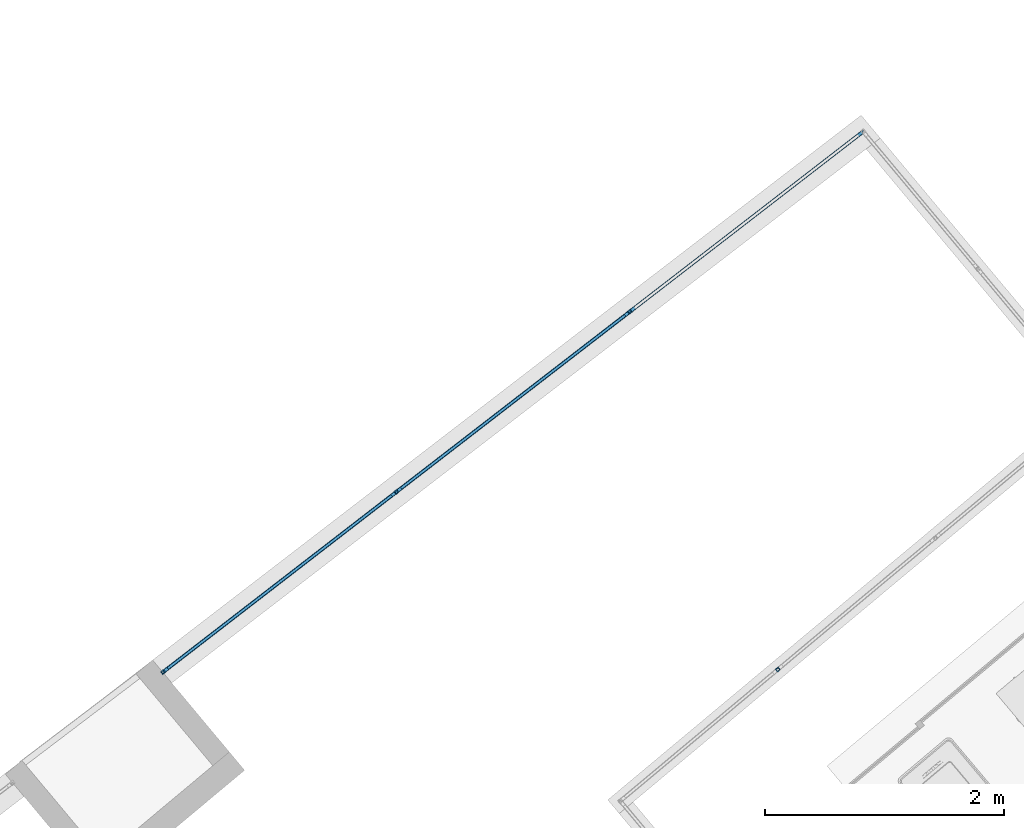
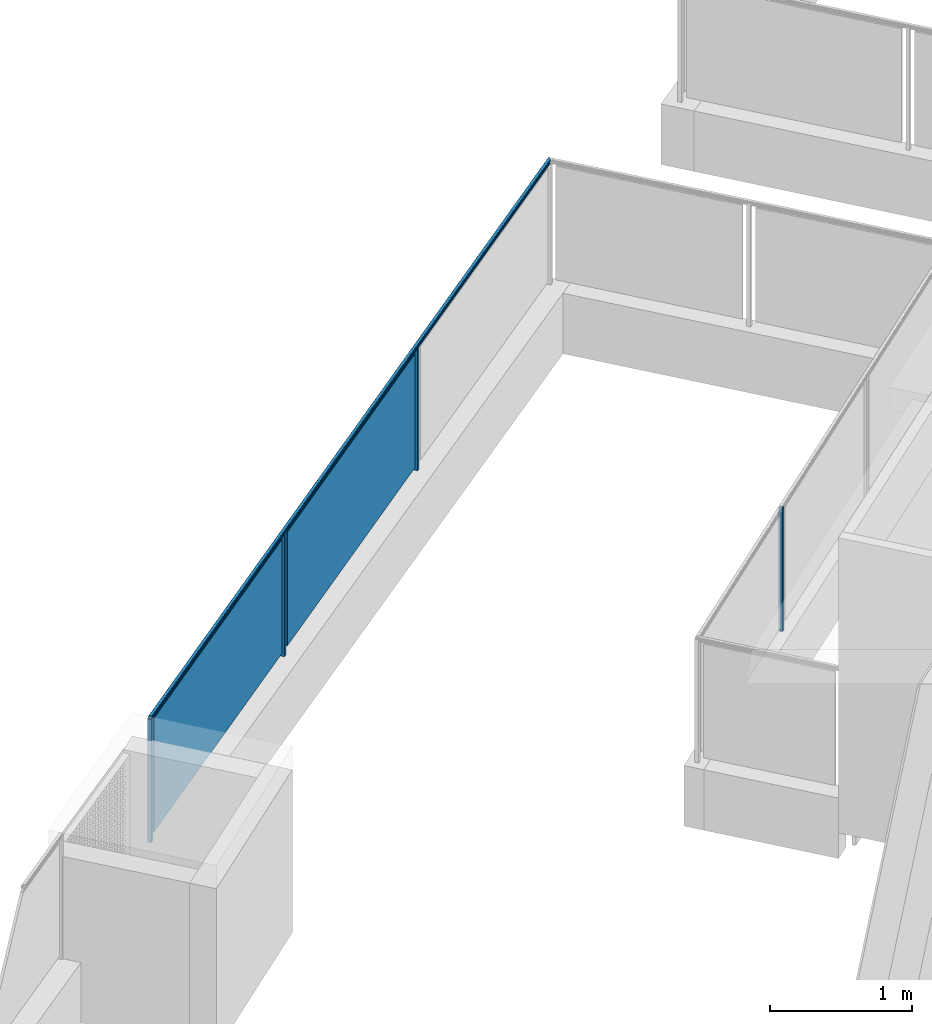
# One storey, part 35 of 67: 7 building element parts, 1 element without a shape of its own.
"""IFC4 building model written with IfcOpenShell, lengths in metres."""

from ifc_helpers import new_model, entity, si_unit, converted_unit, derived_unit, direction, frame, origin_with_axes, place, context, subcontext, project, spatial, polygons, material, type_object, element, aggregate, save


model = new_model("IFC4")

# Units and contexts
model_context = context("Model", 3, precision=1e-05, world=origin_with_axes(), true_north=direction((0.0, 1.0)))
body_context = subcontext(model_context, "Body", "Model", "MODEL_VIEW")
ifc_project = project(units=[si_unit("LENGTHUNIT", "METRE"), si_unit("AREAUNIT", "SQUARE_METRE"), si_unit("VOLUMEUNIT", "CUBIC_METRE"), converted_unit("PLANEANGLEUNIT", "DEGREE", entity("IfcPlaneAngleMeasure", 0.0174532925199), si_unit("PLANEANGLEUNIT", "RADIAN"), dimensions=[0, 0, 0, 0, 0, 0, 0]), converted_unit("TIMEUNIT", "Year", entity("IfcTimeMeasure", 31556926.0), si_unit("TIMEUNIT", "SECOND"), dimensions=[0, 0, 1, 0, 0, 0, 0]), si_unit("MASSUNIT", "GRAM", prefix="KILO"), si_unit("THERMODYNAMICTEMPERATUREUNIT", "DEGREE_CELSIUS"), si_unit("LUMINOUSINTENSITYUNIT", "LUMEN"), si_unit("ENERGYUNIT", "JOULE", prefix="MEGA"), derived_unit("THERMALCONDUCTANCEUNIT", [(si_unit("POWERUNIT", "WATT"), 1), (si_unit("LENGTHUNIT", "METRE"), -1), (si_unit("THERMODYNAMICTEMPERATUREUNIT", "KELVIN"), -1)]), derived_unit("SPECIFICHEATCAPACITYUNIT", [(si_unit("ENERGYUNIT", "JOULE"), 1), (si_unit("MASSUNIT", "GRAM", prefix="KILO"), -1), (si_unit("THERMODYNAMICTEMPERATUREUNIT", "KELVIN"), -1)]), derived_unit("MASSDENSITYUNIT", [(si_unit("MASSUNIT", "GRAM", prefix="KILO"), 1), (si_unit("VOLUMEUNIT", "CUBIC_METRE"), -1)])], contexts=[model_context])

# Site, building, storey
site_placement = place(None, frame((-0.00153261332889, -0.00661245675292, 0.0), z_axis=(0.0, 0.0, 1.0), x_axis=(1.0, 0.0, 0.0)))
site = spatial("IfcSite", under=ifc_project, at=site_placement, Name="Site", CompositionType="ELEMENT")
building_placement = place(site_placement, origin_with_axes())
building = spatial("IfcBuilding", under=site, at=building_placement, Name="Building", CompositionType="ELEMENT")
storey_placement = place(building_placement, frame((0.0, 0.0, -0.22), z_axis=(0.0, 0.0, 1.0), x_axis=(1.0, 0.0, 0.0)))
storey = spatial("IfcBuildingStorey", under=building, at=storey_placement, Name="EG", CompositionType="ELEMENT", Elevation=-0.22)

# Railing, building element parts
railing_type = type_object("IfcRailingType", Name="Geländerart", PredefinedType="NOTDEFINED")
railing_placement = place(storey_placement, frame((-6.36726458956, 22.4448248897, 0.523948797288), z_axis=(0.0, 0.0, 1.0), x_axis=(1.0, 0.0, 0.0)))
railing = element("IfcRailing", 1, at=railing_placement, inside=storey, type_object=railing_type, Name="Geländer - 001", PredefinedType="NOTDEFINED")
ifc_material_1 = material(Name="Aluminium")
building_element_part_1_placement = place(railing_placement, origin_with_axes())
building_element_part_1 = element("IfcBuildingElementPart", 2, at=building_element_part_1_placement, material=ifc_material_1, Name="Aluminium", PredefinedType="NOTDEFINED", context=body_context, shape_type="Tessellation", body=[
    polygons([(-4.49120678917, 1.96508217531, 0.0), (-4.47287339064, 1.94133588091, 0.0), (-4.47287339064, 1.94133588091, 1.06), (-4.49120678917, 1.96508217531, 1.06), (-4.46746049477, 1.98341557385, 0.0), (-4.44912709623, 1.95966927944, 0.0), (-4.48419350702, 1.964180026, 0.0), (-4.47197124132, 1.94834916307, 0.0), (-4.45614037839, 1.96057142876, 0.0), (-4.46836264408, 1.97640229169, 0.0), (-4.44912709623, 1.95966927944, 1.06), (-4.46746049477, 1.98341557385, 1.06), (-4.48419350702, 1.964180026, 1.06), (-4.46836264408, 1.97640229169, 1.06), (-4.45614037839, 1.96057142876, 1.06), (-4.47197124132, 1.94834916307, 1.06)], [[[1, 2, 3, 4]], [[1, 5, 6, 2], [7, 8, 9, 10]], [[2, 6, 11, 3]], [[4, 3, 11, 12], [13, 14, 15, 16]], [[5, 1, 4, 12]], [[6, 5, 12, 11]], [[8, 7, 13, 16]], [[9, 8, 16, 15]], [[10, 9, 15, 14]], [[7, 10, 14, 13]]], closed=True),
])
building_element_part_2_placement = place(railing_placement, origin_with_axes())
building_element_part_2 = element("IfcBuildingElementPart", 3, at=building_element_part_2_placement, material=ifc_material_1, Name="Aluminium", PredefinedType="NOTDEFINED", context=body_context, shape_type="Tessellation", body=[
    polygons([(0.700872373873, 1.98228677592, 0.0), (0.68164116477, 2.00531199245, 0.0), (0.68164116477, 2.00531199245, 1.06), (0.700872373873, 1.98228677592, 1.06), (0.677847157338, 1.96305556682, 0.0), (0.658615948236, 1.98608078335, 0.0), (0.693829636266, 1.98291911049, 0.0), (0.681008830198, 1.99826925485, 0.0), (0.665658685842, 1.98544844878, 0.0), (0.67847949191, 1.97009830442, 0.0), (0.658615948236, 1.98608078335, 1.06), (0.677847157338, 1.96305556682, 1.06), (0.693829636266, 1.98291911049, 1.06), (0.67847949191, 1.97009830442, 1.06), (0.665658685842, 1.98544844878, 1.06), (0.681008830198, 1.99826925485, 1.06)], [[[1, 2, 3, 4]], [[1, 5, 6, 2], [7, 8, 9, 10]], [[2, 6, 11, 3]], [[4, 3, 11, 12], [13, 14, 15, 16]], [[5, 1, 4, 12]], [[6, 5, 12, 11]], [[8, 7, 13, 16]], [[9, 8, 16, 15]], [[10, 9, 15, 14]], [[7, 10, 14, 13]]], closed=True),
])
building_element_part_3_placement = place(railing_placement, origin_with_axes())
building_element_part_3 = element("IfcBuildingElementPart", 4, at=building_element_part_3_placement, material=ifc_material_1, Name="Aluminium", PredefinedType="NOTDEFINED", context=body_context, shape_type="Tessellation", body=[
    polygons([(1.39602010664, 6.50418748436, 1.07636363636), (1.39605547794, 6.50451182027, 1.07634109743), (-4.47650433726, 1.97058422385, 1.07634109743), (-4.47636065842, 1.97039812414, 1.07636363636), (1.39602010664, 6.50418748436, 1.07818181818), (1.39601081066, 6.50410224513, 1.07820551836), (1.39551474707, 6.49955360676, 1.0792391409), (1.39501150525, 6.49493914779, 1.07983921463), (1.39450491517, 6.49029398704, 1.08000117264), (1.39449531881, 6.49020599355, 1.08), (1.39448572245, 6.49011800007, 1.08000117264), (1.39397913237, 6.48547283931, 1.07983921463), (1.39347589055, 6.48085838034, 1.0792391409), (1.39297982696, 6.47630974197, 1.07820551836), (1.39297053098, 6.47622450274, 1.07818181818), (1.39297053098, 6.47622450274, 1.07636363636), (1.39293515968, 6.47590016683, 1.07634109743), (1.39280417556, 6.47469911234, 1.0761115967), (1.39267919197, 6.47355307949, 1.07565956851), (1.39256400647, 6.4724968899, 1.07499874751), (1.39246211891, 6.47156263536, 1.0741492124), (1.3923766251, 6.47077870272, 1.07313677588), (1.39231012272, 6.47016891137, 1.07199220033), (1.39226463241, 6.46975178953, 1.07075026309), (1.39224153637, 6.46954001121, 1.06944869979), (1.39224153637, 6.46954001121, 1.06812705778), (1.39226463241, 6.46975178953, 1.06682549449), (1.39231012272, 6.47016891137, 1.06558355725), (1.3923766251, 6.47077870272, 1.06443898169), (1.39246211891, 6.47156263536, 1.06342654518), (1.39256400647, 6.4724968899, 1.06257701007), (1.39267919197, 6.47355307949, 1.06191618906), (1.39280417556, 6.47469911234, 1.06146416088), (1.39293515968, 6.47590016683, 1.06123466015), (1.39297053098, 6.47622450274, 1.06121212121), (1.39297053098, 6.47622450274, 1.05818181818), (1.39299444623, 6.47644379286, 1.05810011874), (1.3931058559, 6.47746536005, 1.05758389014), (1.39320655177, 6.47838868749, 1.05688326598), (1.39329347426, 6.47918572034, 1.05601953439), (1.39336398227, 6.47983224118, 1.05501893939), (1.39341593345, 6.48030860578, 1.05391188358), (1.39344774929, 6.48060034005, 1.05273200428), (1.39345846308, 6.4806985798, 1.05151515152), (1.39344774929, 6.48060034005, 1.05029829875), (1.39341593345, 6.48030860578, 1.04911841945), (1.39336398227, 6.47983224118, 1.04801136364), (1.39329347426, 6.47918572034, 1.04701076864), (1.39320655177, 6.47838868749, 1.04614703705), (1.3931058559, 6.47746536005, 1.04544641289), (1.39299444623, 6.47644379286, 1.04493018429), (1.39297053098, 6.47622450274, 1.04484848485), (1.39297053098, 6.47622450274, 1.04), (1.39602010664, 6.50418748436, 1.04), (1.39602010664, 6.50418748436, 1.04484848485), (1.39599619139, 6.50396819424, 1.04493018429), (1.39588478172, 6.50294662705, 1.04544641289), (1.39578408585, 6.50202329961, 1.04614703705), (1.39569716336, 6.50122626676, 1.04701076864), (1.39562665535, 6.50057974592, 1.04801136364), (1.39557470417, 6.50010338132, 1.04911841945), (1.39554288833, 6.49981164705, 1.05029829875), (1.39553217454, 6.4997134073, 1.05151515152), (1.39554288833, 6.49981164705, 1.05273200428), (1.39557470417, 6.50010338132, 1.05391188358), (1.39562665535, 6.50057974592, 1.05501893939), (1.39569716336, 6.50122626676, 1.05601953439), (1.39578408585, 6.50202329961, 1.05688326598), (1.39588478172, 6.50294662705, 1.05758389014), (1.39599619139, 6.50396819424, 1.05810011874), (1.39602010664, 6.50418748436, 1.05818181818), (1.39602010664, 6.50418748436, 1.06121212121), (1.39605547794, 6.50451182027, 1.06123466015), (1.39618646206, 6.50571287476, 1.06146416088), (1.39631144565, 6.50685890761, 1.06191618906), (1.39642663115, 6.5079150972, 1.06257701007), (1.39652851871, 6.50884935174, 1.06342654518), (1.39661401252, 6.50963328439, 1.06443898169), (1.3966805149, 6.51024307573, 1.06558355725), (1.39672600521, 6.51066019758, 1.06682549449), (1.39674910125, 6.51087197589, 1.06812705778), (1.39674910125, 6.51087197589, 1.06944869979), (1.39672600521, 6.51066019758, 1.07075026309), (1.3966805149, 6.51024307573, 1.07199220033), (1.39661401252, 6.50963328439, 1.07313677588), (1.39652851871, 6.50884935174, 1.0741492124), (1.39642663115, 6.5079150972, 1.07499874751), (1.39631144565, 6.50685890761, 1.07565956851), (1.39618646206, 6.50571287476, 1.0761115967), (-4.47703639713, 1.97127337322, 1.0761115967), (-4.47754408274, 1.9719309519, 1.07565956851), (-4.47801196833, 1.97253697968, 1.07499874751), (-4.47842583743, 1.97307304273, 1.0741492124), (-4.47877311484, 1.97352285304, 1.07313677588), (-4.47904324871, 1.97387274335, 1.07199220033), (-4.47922803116, 1.97411208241, 1.07075026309), (-4.47932184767, 1.97423359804, 1.06944869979), (-4.47932184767, 1.97423359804, 1.06812705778), (-4.47922803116, 1.97411208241, 1.06682549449), (-4.47904324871, 1.97387274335, 1.06558355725), (-4.47877311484, 1.97352285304, 1.06443898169), (-4.47842583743, 1.97307304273, 1.06342654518), (-4.47801196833, 1.97253697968, 1.06257701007), (-4.47754408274, 1.9719309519, 1.06191618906), (-4.47703639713, 1.97127337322, 1.06146416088), (-4.47650433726, 1.97058422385, 1.06123466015), (-4.47636065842, 1.97039812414, 1.06121212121), (-4.47636065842, 1.97039812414, 1.05818181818), (-4.47626351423, 1.97027229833, 1.05810011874), (-4.47581096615, 1.96968613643, 1.05758389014), (-4.47540193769, 1.96915634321, 1.05688326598), (-4.47504885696, 1.96869901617, 1.05601953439), (-4.47476245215, 1.96832805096, 1.05501893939), (-4.47455142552, 1.96805471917, 1.05391188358), (-4.474422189, 1.96788732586, 1.05273200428), (-4.47437866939, 1.96783095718, 1.05151515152), (-4.474422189, 1.96788732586, 1.05029829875), (-4.47455142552, 1.96805471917, 1.04911841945), (-4.47476245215, 1.96832805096, 1.04801136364), (-4.47504885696, 1.96869901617, 1.04701076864), (-4.47540193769, 1.96915634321, 1.04614703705), (-4.47581096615, 1.96968613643, 1.04544641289), (-4.47626351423, 1.97027229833, 1.04493018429), (-4.47636065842, 1.97039812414, 1.04484848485), (-4.47636065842, 1.97039812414, 1.04), (-4.46397322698, 1.95435333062, 1.04), (-4.46397322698, 1.95435333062, 1.04484848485), (-4.46407037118, 1.95447915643, 1.04493018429), (-4.46452291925, 1.95506531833, 1.04544641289), (-4.46493194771, 1.95559511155, 1.04614703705), (-4.46528502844, 1.95605243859, 1.04701076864), (-4.46557143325, 1.9564234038, 1.04801136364), (-4.46578245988, 1.95669673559, 1.04911841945), (-4.4659116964, 1.9568641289, 1.05029829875), (-4.46595521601, 1.95692049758, 1.05151515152), (-4.4659116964, 1.9568641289, 1.05273200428), (-4.46578245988, 1.95669673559, 1.05391188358), (-4.46557143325, 1.9564234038, 1.05501893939), (-4.46528502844, 1.95605243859, 1.05601953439), (-4.46493194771, 1.95559511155, 1.05688326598), (-4.46452291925, 1.95506531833, 1.05758389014), (-4.46407037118, 1.95447915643, 1.05810011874), (-4.46397322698, 1.95435333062, 1.05818181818), (-4.46397322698, 1.95435333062, 1.06121212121), (-4.46382954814, 1.95416723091, 1.06123466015), (-4.46329748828, 1.95347808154, 1.06146416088), (-4.46278980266, 1.95282050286, 1.06191618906), (-4.46232191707, 1.95221447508, 1.06257701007), (-4.46190804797, 1.95167841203, 1.06342654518), (-4.46156077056, 1.95122860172, 1.06443898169), (-4.46129063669, 1.95087871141, 1.06558355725), (-4.46110585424, 1.95063937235, 1.06682549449), (-4.46101203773, 1.95051785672, 1.06812705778), (-4.46101203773, 1.95051785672, 1.06944869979), (-4.46110585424, 1.95063937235, 1.07075026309), (-4.46129063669, 1.95087871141, 1.07199220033), (-4.46156077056, 1.95122860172, 1.07313677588), (-4.46190804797, 1.95167841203, 1.0741492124), (-4.46232191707, 1.95221447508, 1.07499874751), (-4.46278980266, 1.95282050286, 1.07565956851), (-4.46329748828, 1.95347808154, 1.0761115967), (-4.46382954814, 1.95416723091, 1.07634109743), (-4.46397322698, 1.95435333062, 1.07636363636), (-4.46397322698, 1.95435333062, 1.07818181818), (-4.46401098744, 1.95440223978, 1.07820551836), (-4.46602600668, 1.95701218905, 1.0792391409), (-4.46807018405, 1.95965990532, 1.07983921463), (-4.47012796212, 1.96232523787, 1.08000117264), (-4.4701669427, 1.96237572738, 1.08), (-4.47020592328, 1.96242621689, 1.08000117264), (-4.47226370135, 1.96509154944, 1.07983921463), (-4.47430787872, 1.96773926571, 1.0792391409), (-4.47632289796, 1.97034921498, 1.07820551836), (-4.47636065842, 1.97039812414, 1.07818181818)], [[[1, 2, 3, 4]], [[1, 5, 6, 7, 8, 9, 10, 11, 12, 13, 14, 15, 16, 17, 18, 19, 20, 21, 22, 23, 24, 25, 26, 27, 28, 29, 30, 31, 32, 33, 34, 35, 36, 37, 38, 39, 40, 41, 42, 43, 44, 45, 46, 47, 48, 49, 50, 51, 52, 53, 54, 55, 56, 57, 58, 59, 60, 61, 62, 63, 64, 65, 66, 67, 68, 69, 70, 71, 72, 73, 74, 75, 76, 77, 78, 79, 80, 81, 82, 83, 84, 85, 86, 87, 88, 89, 2]], [[2, 89, 90, 3]], [[4, 3, 90, 91, 92, 93, 94, 95, 96, 97, 98, 99, 100, 101, 102, 103, 104, 105, 106, 107, 108, 109, 110, 111, 112, 113, 114, 115, 116, 117, 118, 119, 120, 121, 122, 123, 124, 125, 126, 127, 128, 129, 130, 131, 132, 133, 134, 135, 136, 137, 138, 139, 140, 141, 142, 143, 144, 145, 146, 147, 148, 149, 150, 151, 152, 153, 154, 155, 156, 157, 158, 159, 160, 161, 162, 163, 164, 165, 166, 167, 168, 169, 170, 171, 172, 173, 174]], [[5, 1, 4, 174]], [[6, 5, 174, 173]], [[7, 6, 173, 172]], [[8, 7, 172, 171]], [[9, 8, 171, 170]], [[10, 9, 170, 169]], [[11, 10, 169, 168]], [[12, 11, 168, 167]], [[13, 12, 167, 166]], [[14, 13, 166, 165]], [[15, 14, 165, 164]], [[16, 15, 164, 163]], [[17, 16, 163, 162]], [[18, 17, 162, 161]], [[19, 18, 161, 160]], [[20, 19, 160, 159]], [[21, 20, 159, 158]], [[22, 21, 158, 157]], [[23, 22, 157, 156]], [[24, 23, 156, 155]], [[25, 24, 155, 154]], [[26, 25, 154, 153]], [[27, 26, 153, 152]], [[28, 27, 152, 151]], [[29, 28, 151, 150]], [[30, 29, 150, 149]], [[31, 30, 149, 148]], [[32, 31, 148, 147]], [[33, 32, 147, 146]], [[34, 33, 146, 145]], [[35, 34, 145, 144]], [[36, 35, 144, 143]], [[37, 36, 143, 142]], [[38, 37, 142, 141]], [[39, 38, 141, 140]], [[40, 39, 140, 139]], [[41, 40, 139, 138]], [[42, 41, 138, 137]], [[43, 42, 137, 136]], [[44, 43, 136, 135]], [[45, 44, 135, 134]], [[46, 45, 134, 133]], [[47, 46, 133, 132]], [[48, 47, 132, 131]], [[49, 48, 131, 130]], [[50, 49, 130, 129]], [[51, 50, 129, 128]], [[52, 51, 128, 127]], [[53, 52, 127, 126]], [[54, 53, 126, 125]], [[55, 54, 125, 124]], [[56, 55, 124, 123]], [[57, 56, 123, 122]], [[58, 57, 122, 121]], [[59, 58, 121, 120]], [[60, 59, 120, 119]], [[61, 60, 119, 118]], [[62, 61, 118, 117]], [[63, 62, 117, 116]], [[64, 63, 116, 115]], [[65, 64, 115, 114]], [[66, 65, 114, 113]], [[67, 66, 113, 112]], [[68, 67, 112, 111]], [[69, 68, 111, 110]], [[70, 69, 110, 109]], [[71, 70, 109, 108]], [[72, 71, 108, 107]], [[73, 72, 107, 106]], [[74, 73, 106, 105]], [[75, 74, 105, 104]], [[76, 75, 104, 103]], [[77, 76, 103, 102]], [[78, 77, 102, 101]], [[79, 78, 101, 100]], [[80, 79, 100, 99]], [[81, 80, 99, 98]], [[82, 81, 98, 97]], [[83, 82, 97, 96]], [[84, 83, 96, 95]], [[85, 84, 95, 94]], [[86, 85, 94, 93]], [[87, 86, 93, 92]], [[88, 87, 92, 91]], [[89, 88, 91, 90]]], closed=True),
])
building_element_part_4_placement = place(railing_placement, origin_with_axes())
building_element_part_4 = element("IfcBuildingElementPart", 5, at=building_element_part_4_placement, material=ifc_material_1, Name="Aluminium", PredefinedType="NOTDEFINED", context=body_context, shape_type="Tessellation", body=[
    polygons([(-0.581431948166, 4.9836356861, 0.0), (-0.563098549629, 4.95988939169, 0.0), (-0.563098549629, 4.95988939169, 1.06), (-0.581431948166, 4.9836356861, 1.06), (-0.557685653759, 5.00196908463, 0.0), (-0.539352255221, 4.97822279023, 0.0), (-0.574418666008, 4.98273353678, 0.0), (-0.562196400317, 4.96690267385, 0.0), (-0.546365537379, 4.97912493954, 0.0), (-0.55858780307, 4.99495580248, 0.0), (-0.539352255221, 4.97822279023, 1.06), (-0.557685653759, 5.00196908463, 1.06), (-0.574418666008, 4.98273353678, 1.06), (-0.55858780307, 4.99495580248, 1.06), (-0.546365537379, 4.97912493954, 1.06), (-0.562196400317, 4.96690267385, 1.06)], [[[1, 2, 3, 4]], [[1, 5, 6, 2], [7, 8, 9, 10]], [[2, 6, 11, 3]], [[4, 3, 11, 12], [13, 14, 15, 16]], [[5, 1, 4, 12]], [[6, 5, 12, 11]], [[8, 7, 13, 16]], [[9, 8, 16, 15]], [[10, 9, 15, 14]], [[7, 10, 14, 13]]], closed=True),
])
ifc_material_2 = material(Name="Zaun")
building_element_part_5_placement = place(railing_placement, origin_with_axes())
building_element_part_5 = element("IfcBuildingElementPart", 6, at=building_element_part_5_placement, material=ifc_material_2, Name="Zaun", PredefinedType="NOTDEFINED", context=body_context, shape_type="Tessellation", body=[
    polygons([(-2.46959123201, 3.49429271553, 0.05), (-0.593858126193, 4.94245814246, 0.05), (-0.593858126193, 4.94245814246, 1.03), (-2.46959123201, 3.49429271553, 1.03), (-0.606080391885, 4.9582890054, 0.05), (-2.4818134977, 3.51012357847, 0.05), (-0.606080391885, 4.9582890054, 1.03), (-2.4818134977, 3.51012357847, 1.03)], [[[1, 2, 3, 4]], [[5, 2, 1, 6]], [[7, 3, 2, 5]], [[4, 3, 7, 8]], [[1, 4, 8, 6]], [[7, 5, 6, 8]]], closed=True),
])
building_element_part_6_placement = place(railing_placement, origin_with_axes())
building_element_part_6 = element("IfcBuildingElementPart", 7, at=building_element_part_6_placement, material=ifc_material_1, Name="Aluminium", PredefinedType="NOTDEFINED", context=body_context, shape_type="Tessellation", body=[
    polygons([(-2.53631936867, 3.47435893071, 0.0), (-2.51798597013, 3.4506126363, 0.0), (-2.51798597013, 3.4506126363, 1.06), (-2.53631936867, 3.47435893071, 1.06), (-2.51257307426, 3.49269232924, 0.0), (-2.49423967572, 3.46894603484, 0.0), (-2.52930608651, 3.47345678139, 0.0), (-2.51708382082, 3.45762591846, 0.0), (-2.50125295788, 3.46984818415, 0.0), (-2.51347522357, 3.48567904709, 0.0), (-2.49423967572, 3.46894603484, 1.06), (-2.51257307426, 3.49269232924, 1.06), (-2.52930608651, 3.47345678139, 1.06), (-2.51347522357, 3.48567904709, 1.06), (-2.50125295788, 3.46984818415, 1.06), (-2.51708382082, 3.45762591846, 1.06)], [[[1, 2, 3, 4]], [[1, 5, 6, 2], [7, 8, 9, 10]], [[2, 6, 11, 3]], [[4, 3, 11, 12], [13, 14, 15, 16]], [[5, 1, 4, 12]], [[6, 5, 12, 11]], [[8, 7, 13, 16]], [[9, 8, 16, 15]], [[10, 9, 15, 14]], [[7, 10, 14, 13]]], closed=True),
])
building_element_part_7_placement = place(railing_placement, origin_with_axes())
building_element_part_7 = element("IfcBuildingElementPart", 8, at=building_element_part_7_placement, material=ifc_material_2, Name="Zaun", PredefinedType="NOTDEFINED", context=body_context, shape_type="Tessellation", body=[
    polygons([(-4.42447865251, 1.98501596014, 0.05), (-2.5487455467, 3.43318138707, 0.05), (-2.5487455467, 3.43318138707, 1.03), (-4.42447865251, 1.98501596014, 1.03), (-2.56096781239, 3.44901225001, 0.05), (-4.4367009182, 2.00084682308, 0.05), (-2.56096781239, 3.44901225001, 1.03), (-4.4367009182, 2.00084682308, 1.03)], [[[1, 2, 3, 4]], [[5, 2, 1, 6]], [[7, 3, 2, 5]], [[4, 3, 7, 8]], [[1, 4, 8, 6]], [[7, 5, 6, 8]]], closed=True),
])
aggregate(railing, [building_element_part_1, building_element_part_2, building_element_part_3, building_element_part_4, building_element_part_5, building_element_part_6, building_element_part_7])

save(model, "model.ifc")
